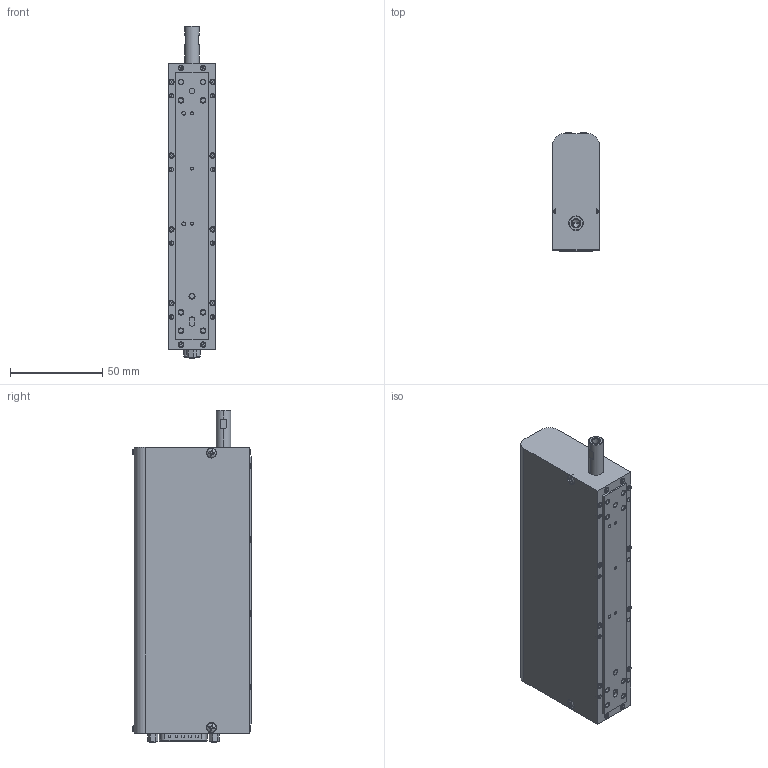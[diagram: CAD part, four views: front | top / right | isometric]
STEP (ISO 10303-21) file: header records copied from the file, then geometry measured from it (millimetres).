
FILE_DESCRIPTION (( 'STEP AP203' ), '1' );
FILE_NAME ('25.STEP', '2021-08-31T17:49:52', ( '' ), ( '' ), 'SwSTEP 2.0', 'SolidWorks 2020', '' );
FILE_SCHEMA (( 'CONFIG_CONTROL_DESIGN' ));
Length unit declared in the file: millimetre
Products named in the file (1): 25
Bounding box: 25.86 x 64.1 x 180.06 mm (x, y, z)
Volume: 246987 mm3; surface area: 32890.3 mm2
Topology: 1 solids, 11 shells, 1249 faces, 3297 edges, 2113 vertices
Faces by surface type: plane 676, cylinder 357, cone 120, torus 52, bspline 36, sphere 8
Entity records: 44018 total; most frequent: CARTESIAN_POINT 13022, ORIENTED_EDGE 6558, DIRECTION 6343, EDGE_CURVE 3279, AXIS2_PLACEMENT_3D 2174, VERTEX_POINT 2113, VECTOR 1995, LINE 1995
